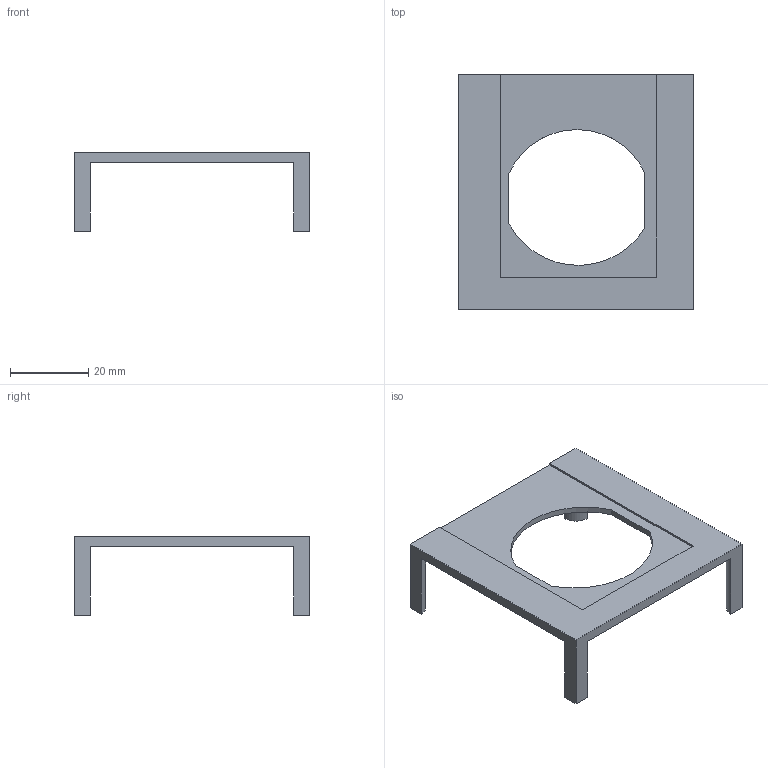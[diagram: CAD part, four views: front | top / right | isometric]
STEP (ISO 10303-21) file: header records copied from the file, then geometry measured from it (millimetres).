
FILE_DESCRIPTION(('Open CASCADE Model'),'2;1');
FILE_NAME('contact-gel-mold.step','2026-11-14T14:29:30',('Author'),( 'Open CASCADE'),'Open CASCADE STEP processor 8.0','Open CASCADE 8.0' ,'Unknown');
FILE_SCHEMA(('AP242_MANAGED_MODEL_BASED_3D_ENGINEERING_MIM_LF {1 0 10303 442 1 1 4 }' ));
Length unit declared in the file: millimetre
Products named in the file (1): Contact Gel Mold
Bounding box: 60 x 60 x 20 mm (x, y, z)
Volume: 6504.8 mm3; surface area: 7105.1 mm2
Topology: 1 solids, 1 shells, 27 faces, 72 edges, 48 vertices
Faces by surface type: plane 19, cylinder 8
Entity records: 1837 total; most frequent: CARTESIAN_POINT 382, DIRECTION 273, LINE 184, VECTOR 184, ORIENTED_EDGE 144, PCURVE 144, DEFINITIONAL_REPRESENTATION 144, EDGE_CURVE 72
